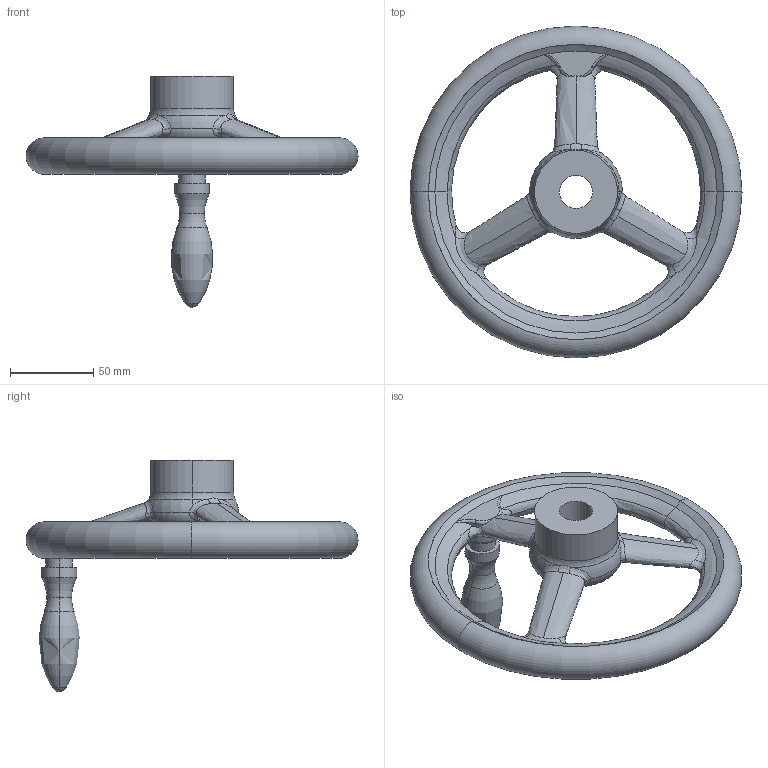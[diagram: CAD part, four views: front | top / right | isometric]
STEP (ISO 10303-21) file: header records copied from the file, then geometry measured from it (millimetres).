
FILE_DESCRIPTION (( 'STEP AP214' ), '1' );
FILE_NAME ('950.1-GG-200-B20-D.step', '2020-05-18T09:12:22', ( '' ), ( '' ), 'SwSTEP 2.0', 'SolidWorks 2019', '' );
FILE_SCHEMA (( 'AUTOMOTIVE_DESIGN' ));
Length unit declared in the file: millimetre
Products named in the file (1): 950.1-GG-200-B20-D
Bounding box: 200 x 200 x 139.27 mm (x, y, z)
Volume: 343756.9 mm3; surface area: 65204.8 mm2
Topology: 1 solids, 1 shells, 118 faces, 306 edges, 187 vertices
Faces by surface type: torus 44, bspline 44, cylinder 18, plane 6, cone 4, sphere 2
Entity records: 10402 total; most frequent: CARTESIAN_POINT 7889, ORIENTED_EDGE 612, DIRECTION 418, EDGE_CURVE 306, AXIS2_PLACEMENT_3D 201, VERTEX_POINT 187, B_SPLINE_CURVE_WITH_KNOTS 149, CIRCLE 126
